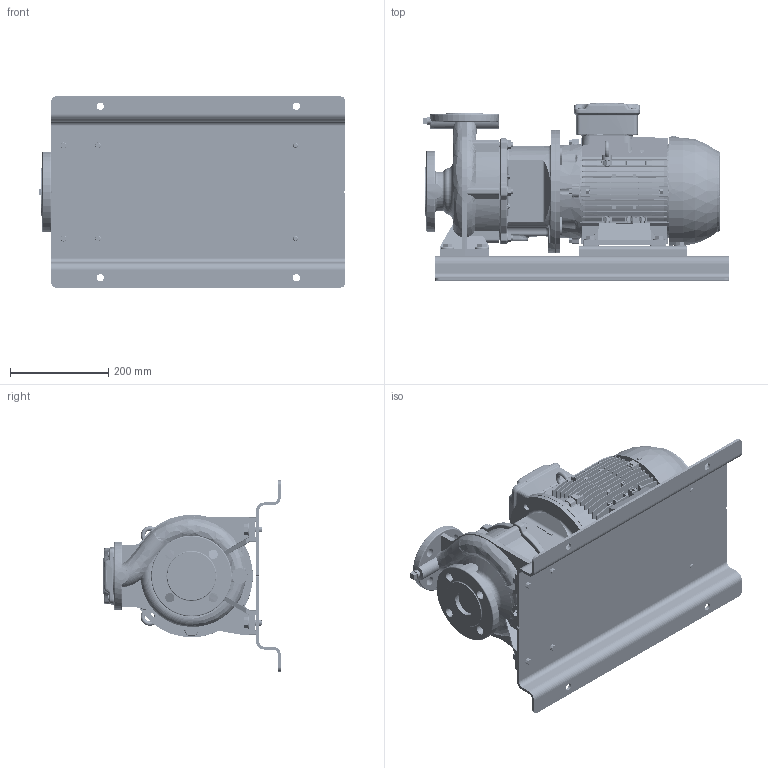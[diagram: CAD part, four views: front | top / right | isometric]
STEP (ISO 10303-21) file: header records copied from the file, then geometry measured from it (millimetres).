
FILE_DESCRIPTION (( 'STEP AP214' ), '1' );
FILE_NAME ('GSD2 32-160_4.0_(112M)_W21_BP.STEP', '2024-03-19T04:07:45', ( '' ), ( '' ), 'SwSTEP 2.0', 'SolidWorks 2019', '' );
FILE_SCHEMA (( 'AUTOMOTIVE_DESIGN' ));
Length unit declared in the file: millimetre
Products named in the file (9): GSD2  32-160_4.0_(112M)_W21_BP; Parametric bolt_SFT-A299B; 140 x 20 - 271472024; Parametric Flat Washer_M12; Parametric Flat Washer_M10; N3S3 GSDA-333 F1-1832905-00; 112M ALIE3_W21T_B35; 32-160-112M; Parametric bolt_SFT-A253B
Assembly tree (25 placements, depth 2):
  GSD2  32-160_4.0_(112M)_W21_BP
    32-160-112M
    112M ALIE3_W21T_B35
    N3S3 GSDA-333 F1-1832905-00
    140 x 20 - 271472024  x2
    Parametric bolt_SFT-A299B  x4
    Parametric bolt_SFT-A253B  x6
    Parametric Flat Washer_M10  x6
    Parametric Flat Washer_M12  x4
Bounding box: 625.65 x 362 x 390 mm (x, y, z)
Volume: 19025827.8 mm3; surface area: 1973380.4 mm2
Topology: 50 solids, 52 shells, 5194 faces, 13917 edges, 9098 vertices
Faces by surface type: plane 2691, cylinder 1235, bspline 493, torus 387, cone 377, sphere 11
Entity records: 213109 total; most frequent: CARTESIAN_POINT 88583, ORIENTED_EDGE 25390, DIRECTION 20687, EDGE_CURVE 12695, VERTEX_POINT 8309, LINE 7135, VECTOR 7135, AXIS2_PLACEMENT_3D 6776
